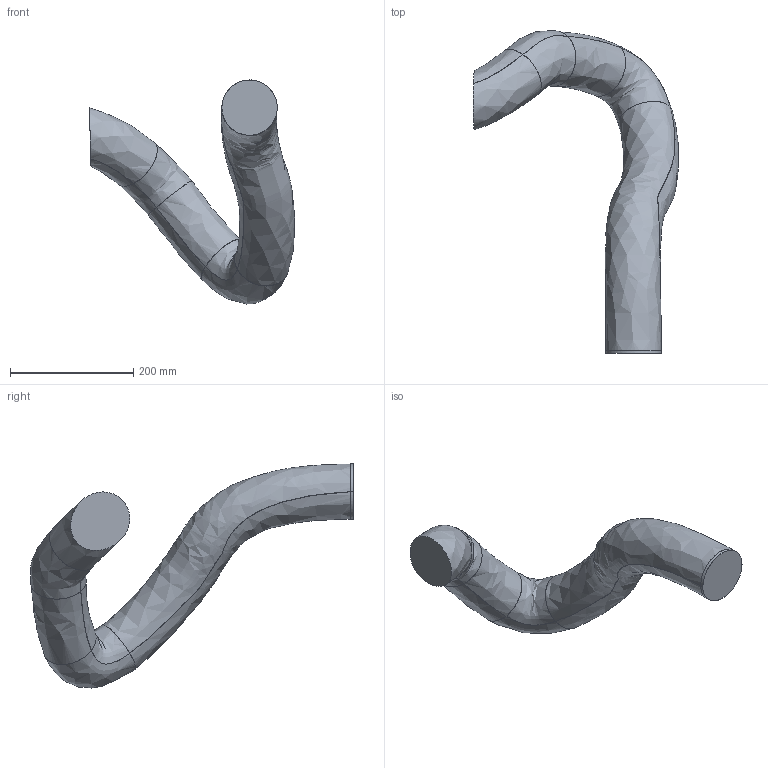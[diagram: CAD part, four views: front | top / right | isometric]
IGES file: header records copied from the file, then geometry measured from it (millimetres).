
Start section: SolidWorks IGES file using analytic representation for surfaces
Global section: file name: C:\Data\SAP_DOC\IRB6740_lightweight\6750S\IRB 6750S ASM\IRB6750S-LID-SW_270kg-320_OC_02_SW_J\IRB6750S-LID-SW_270kg-320_OC_02_IGES_J\IRB6750S-LID_ALL-320-OC_00_LINK05_CABLE.igs; native system: SolidWorks 2024; preprocessor: SolidWorks 2024; author: SEJAOLS6; date: 260507.084039; units: millimetre
Bounding box: 333.73 x 524.68 x 364.39 mm (x, y, z)
Surface area: 275163.7 mm2 (no closed solid volume)
Topology: 0 solids, 0 shells, 14 faces, 233 edges, 233 vertices
Faces by surface type: bspline 14
